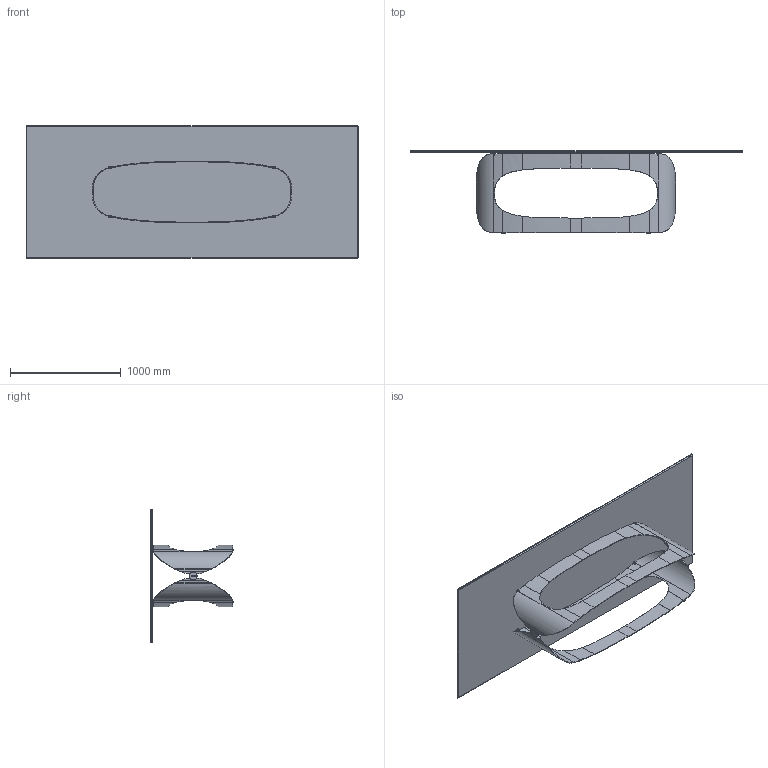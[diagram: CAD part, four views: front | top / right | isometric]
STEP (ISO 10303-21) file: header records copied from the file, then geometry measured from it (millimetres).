
FILE_DESCRIPTION (( 'STEP AP203' ), '1' );
FILE_NAME ('PO24C_Polifemo_300x120_.STEP', '2024-08-06T14:20:34', ( '' ), ( '' ), 'SwSTEP 2.0', 'SolidWorks 2022', '' );
FILE_SCHEMA (( 'CONFIG_CONTROL_DESIGN' ));
Length unit declared in the file: millimetre
Products named in the file (11): POL000000_03A-01-POLIFEMO FREGIO; POL000000_02-02-CILINDRO DI FISSAGGIO Ø12X15 M8; PST0GR022-01-PIASTRA D22x22H mm+FILETTO M8 AVP-AVZ GREZZO; POL000001-00-POLIFEMO BASE L300 GREZZO; POL000000_03B-00-POLIFEMO FREGIO; POL000001_01-00-MEZZA BASE POLIFEMO L300 GREZZO; PVC profilo Polifemo 9x8; PVC Ø19x3; POL000000_03-01-POLIFEMO FREGIO COMPLETO; K2XCMXX-00-Piani Rettangolari in ceramica_3000 x 1200; PO24C_Polifemo_300x120_
Assembly tree (24 placements, depth 3):
  PO24C_Polifemo_300x120_
    POL000001-00-POLIFEMO BASE L300 GREZZO
      POL000001_01-00-MEZZA BASE POLIFEMO L300 GREZZO  x2
      POL000000_02-02-CILINDRO DI FISSAGGIO Ø12X15 M8  x4
    POL000000_03-01-POLIFEMO FREGIO COMPLETO  x2
      POL000000_03A-01-POLIFEMO FREGIO
      POL000000_03B-00-POLIFEMO FREGIO
    PST0GR022-01-PIASTRA D22x22H mm+FILETTO M8 AVP-AVZ GREZZO  x4
    PVC Ø19x3  x4
    PVC profilo Polifemo 9x8  x3
    K2XCMXX-00-Piani Rettangolari in ceramica_3000 x 1200
Bounding box: 3000 x 740.97 x 1200 mm (x, y, z)
Volume: 66528500.7 mm3; surface area: 17699372.5 mm2
Topology: 25 solids, 25 shells, 590 faces, 1476 edges, 942 vertices
Faces by surface type: cylinder 253, plane 165, bspline 152, cone 20
Entity records: 17207 total; most frequent: CARTESIAN_POINT 10437, ORIENTED_EDGE 1236, DIRECTION 869, EDGE_CURVE 618, VERTEX_POINT 394, AXIS2_PLACEMENT_3D 320, EDGE_LOOP 250, ADVANCED_FACE 244
